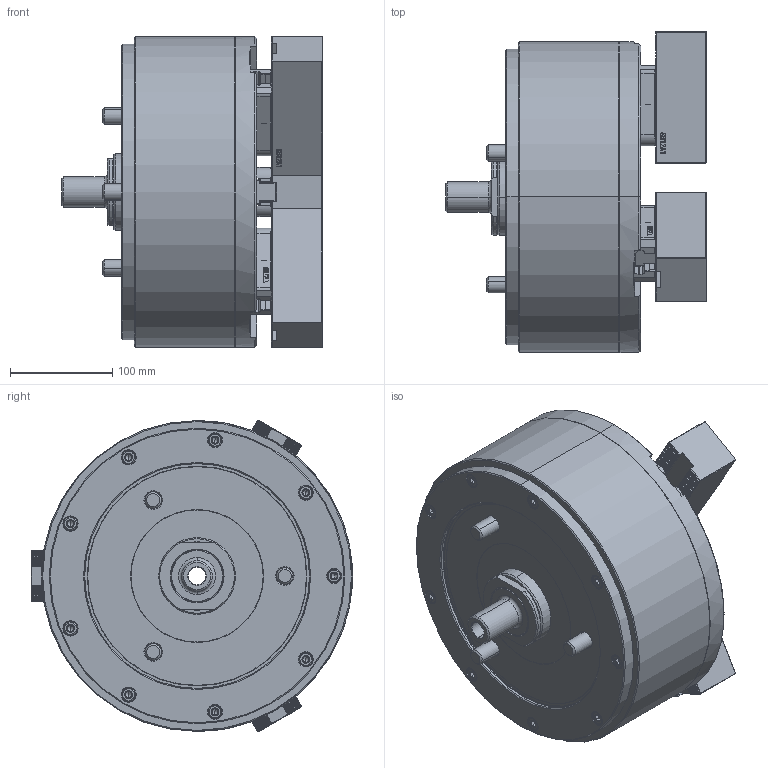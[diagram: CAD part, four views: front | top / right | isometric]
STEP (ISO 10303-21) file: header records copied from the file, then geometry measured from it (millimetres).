
FILE_DESCRIPTION (( 'STEP AP214' ), '1' );
FILE_NAME ('DL212_UC_ID.STEP', '2019-11-29T06:48:11', ( '' ), ( '' ), 'SwSTEP 2.0', 'SolidWorks 2017', '' );
FILE_SCHEMA (( 'AUTOMOTIVE_DESIGN' ));
Length unit declared in the file: millimetre
Products named in the file (5): 結合_ID; 0030114040; 61P458879; 61P851659; DL212_UC_ID
Assembly tree (13 placements, depth 2):
  DL212_UC_ID
    61P851659  x3
    61P458879  x3
    0030114040  x6
    結合_ID
Bounding box: 254.74 x 313.95 x 304.91 mm (x, y, z)
Volume: 10147057.4 mm3; surface area: 574969.6 mm2
Topology: 13 solids, 13 shells, 6373 faces, 17498 edges, 11373 vertices
Faces by surface type: plane 4461, cylinder 747, bspline 686, cone 451, torus 28
Entity records: 171534 total; most frequent: CARTESIAN_POINT 55997, ORIENTED_EDGE 26028, DIRECTION 20560, EDGE_CURVE 13014, LINE 9586, VECTOR 9586, VERTEX_POINT 8478, AXIS2_PLACEMENT_3D 5487
